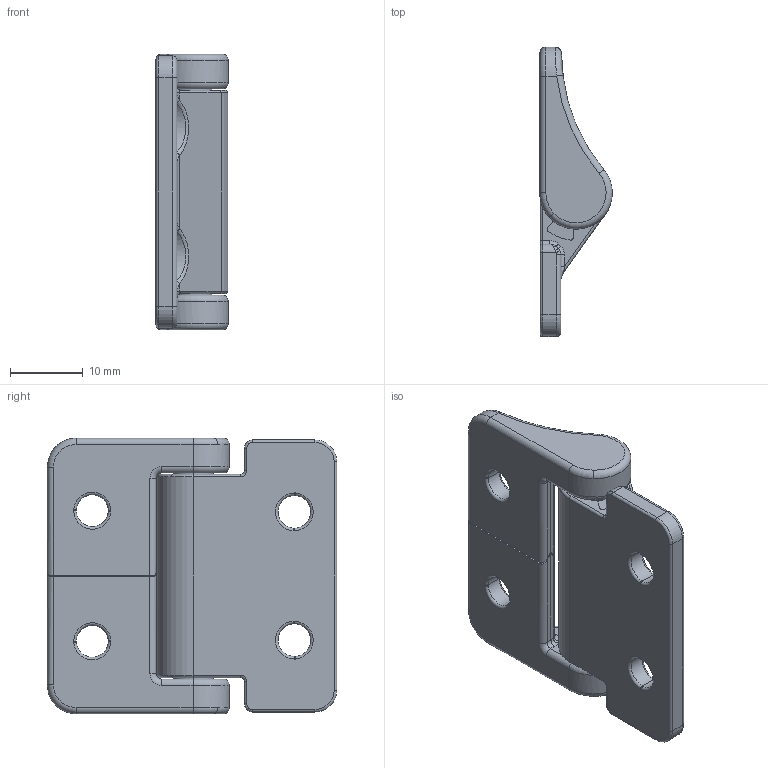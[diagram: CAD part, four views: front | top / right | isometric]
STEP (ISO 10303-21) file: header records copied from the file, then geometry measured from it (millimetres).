
FILE_DESCRIPTION (( 'STEP AP203' ), '1' );
FILE_NAME ('XG11-003-1.STEP', '2025-04-17T09:15:24', ( '微软用户' ), ( '微软中国' ), 'SwSTEP 2.0', 'SolidWorks 2024', '' );
FILE_SCHEMA (( 'CONFIG_CONTROL_DESIGN' ));
Length unit declared in the file: millimetre
Products named in the file (1): XG11-003-1
Bounding box: 10 x 39.9 x 38 mm (x, y, z)
Volume: 6316.9 mm3; surface area: 4883.3 mm2
Topology: 4 solids, 4 shells, 300 faces, 730 edges, 444 vertices
Faces by surface type: cylinder 102, torus 89, plane 54, bspline 34, cone 21
Entity records: 11036 total; most frequent: CARTESIAN_POINT 3952, DIRECTION 1570, ORIENTED_EDGE 1460, EDGE_CURVE 730, AXIS2_PLACEMENT_3D 678, VERTEX_POINT 444, CIRCLE 411, EDGE_LOOP 316
